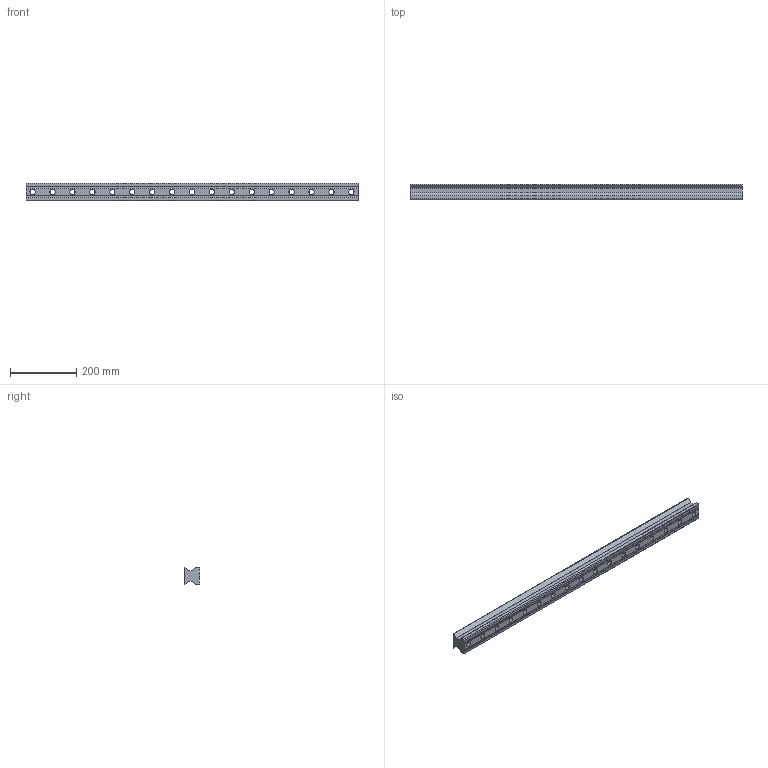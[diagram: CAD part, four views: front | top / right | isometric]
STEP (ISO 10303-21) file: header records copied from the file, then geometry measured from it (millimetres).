
FILE_DESCRIPTION(/* description */ (''),/* implementation_level */ '2;1');
FILE_NAME(/* name */ 'URR55R1000H_GW202603049644.stp',/* time_stamp */ '2026-03-30T23:07:47+08:00',/* author */ ('User'),/* organization */ (''),/* preprocessor_version */ 'ST-DEVELOPER v20.1',/* originating_system */ 'Autodesk Inventor 2026',/* authorisation */ '');
FILE_SCHEMA (('AUTOMOTIVE_DESIGN { 1 0 10303 214 3 1 1 }'));
Products named in the file (2): URR55R1000H_GW202603049644; UR55
Assembly tree (1 placements, depth 2):
  URR55R1000H_GW202603049644
    UR55
Bounding box: 1000 x 46 x 53 mm (x, y, z)
Volume: 1718373.7 mm3; surface area: 257649 mm2
Topology: 1 solids, 1 shells, 210 faces, 558 edges, 372 vertices
Faces by surface type: plane 109, bspline 57, cylinder 44
Full cylindrical faces by diameter (mm): 16 x17, 23 x17
Entity records: 7864 total; most frequent: CARTESIAN_POINT 2784, ORIENTED_EDGE 1116, DIRECTION 848, EDGE_CURVE 558, VERTEX_POINT 372, LINE 356, VECTOR 356, EDGE_LOOP 266
